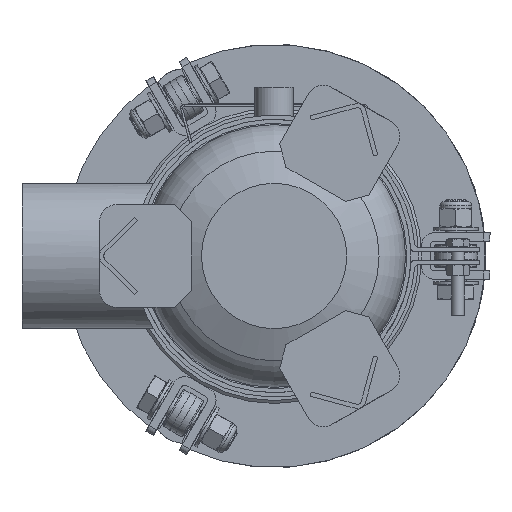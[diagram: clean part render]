
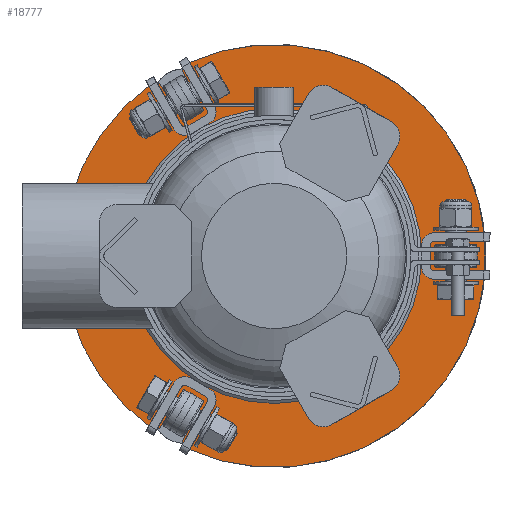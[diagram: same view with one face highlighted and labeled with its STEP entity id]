
A CAD part, front view. The second image highlights one B-rep face of the part: STEP entity #18777.
In plain terms, the highlighted planar face has unit normal (0, -1, 0).
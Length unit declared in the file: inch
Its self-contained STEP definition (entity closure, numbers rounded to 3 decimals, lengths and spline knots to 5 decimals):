
#87 = CIRCLE ( 'NONE', #5750, 0.3125 ) ;
#481 = AXIS2_PLACEMENT_3D ( 'NONE', #14087, #4755, #20292 ) ;
#501 = DIRECTION ( 'NONE',  ( 0., 1., 0. ) ) ;
#507 = CARTESIAN_POINT ( 'NONE',  ( 5.3125, 0., -0.3125 ) ) ;
#591 = AXIS2_PLACEMENT_3D ( 'NONE', #11074, #17511, #3110 ) ;
#632 = VERTEX_POINT ( 'NONE', #7516 ) ;
#1125 = DIRECTION ( 'NONE',  ( 0., 1., 0. ) ) ;
#1278 = CARTESIAN_POINT ( 'NONE',  ( -3.31155, 0., 4.98577 ) ) ;
#1375 = EDGE_CURVE ( 'NONE', #14117, #14117, #9867, .T. ) ;
#1520 = PLANE ( 'NONE',  #481 ) ;
#2455 = AXIS2_PLACEMENT_3D ( 'NONE', #4447, #17099, #9196 ) ;
#2499 = VERTEX_POINT ( 'NONE', #10146 ) ;
#2785 = CIRCLE ( 'NONE', #17692, 0.375 ) ;
#2924 = CARTESIAN_POINT ( 'NONE',  ( -4.3125, 0., 0. ) ) ;
#3005 = CIRCLE ( 'NONE', #8643, 0.1875 ) ;
#3071 = ORIENTED_EDGE ( 'NONE', *, *, #17497, .T. ) ;
#3110 = DIRECTION ( 'NONE',  ( -1., 0., 0. ) ) ;
#3152 = DIRECTION ( 'NONE',  ( 0., 1., 0. ) ) ;
#3170 = ORIENTED_EDGE ( 'NONE', *, *, #11156, .T. ) ;
#3233 = DIRECTION ( 'NONE',  ( 0., 1., 0. ) ) ;
#3238 = ORIENTED_EDGE ( 'NONE', *, *, #10824, .T. ) ;
#3355 = DIRECTION ( 'NONE',  ( 0.5, 0., -0.866 ) ) ;
#3702 = ORIENTED_EDGE ( 'NONE', *, *, #7614, .F. ) ;
#3980 = ORIENTED_EDGE ( 'NONE', *, *, #14363, .T. ) ;
#4447 = CARTESIAN_POINT ( 'NONE',  ( -2.65625, 0., -4.60076 ) ) ;
#4511 = VERTEX_POINT ( 'NONE', #19756 ) ;
#4651 = ORIENTED_EDGE ( 'NONE', *, *, #6536, .F. ) ;
#4673 = EDGE_LOOP ( 'NONE', ( #7892 ) ) ;
#4755 = DIRECTION ( 'NONE',  ( 0., -1., 0. ) ) ;
#4761 = EDGE_CURVE ( 'NONE', #12469, #5515, #16226, .T. ) ;
#4879 = CARTESIAN_POINT ( 'NONE',  ( -2.49965, 0., -5.45452 ) ) ;
#4930 = DIRECTION ( 'NONE',  ( 0., -1., 0. ) ) ;
#5159 = CARTESIAN_POINT ( 'NONE',  ( -2.98101, 0., -4.41326 ) ) ;
#5196 = DIRECTION ( 'NONE',  ( 0., 0., -1. ) ) ;
#5356 = CARTESIAN_POINT ( 'NONE',  ( -2.33149, 0., 4.78826 ) ) ;
#5515 = VERTEX_POINT ( 'NONE', #17279 ) ;
#5619 = AXIS2_PLACEMENT_3D ( 'NONE', #20441, #3152, #17258 ) ;
#5626 = ORIENTED_EDGE ( 'NONE', *, *, #20177, .T. ) ;
#5750 = AXIS2_PLACEMENT_3D ( 'NONE', #17694, #4930, #9796 ) ;
#6387 = DIRECTION ( 'NONE',  ( 0., 0., -1. ) ) ;
#6430 = CIRCLE ( 'NONE', #2455, 0.375 ) ;
#6436 = CIRCLE ( 'NONE', #18033, 6.1875 ) ;
#6473 = CARTESIAN_POINT ( 'NONE',  ( -2.7633, 0., 5.53618 ) ) ;
#6536 = EDGE_CURVE ( 'NONE', #7204, #632, #3005, .T. ) ;
#6555 = VERTEX_POINT ( 'NONE', #19388 ) ;
#6702 = LINE ( 'NONE', #12907, #9333 ) ;
#6830 = CARTESIAN_POINT ( 'NONE',  ( -2.57776, 0., -5.62497 ) ) ;
#6905 = DIRECTION ( 'NONE',  ( -0.5, 0., -0.866 ) ) ;
#7204 = VERTEX_POINT ( 'NONE', #6830 ) ;
#7460 = DIRECTION ( 'NONE',  ( 0., 0., -1. ) ) ;
#7488 = ORIENTED_EDGE ( 'NONE', *, *, #16138, .T. ) ;
#7516 = CARTESIAN_POINT ( 'NONE',  ( -2.66203, 0., -5.36077 ) ) ;
#7614 = EDGE_CURVE ( 'NONE', #14675, #16308, #11310, .T. ) ;
#7689 = CIRCLE ( 'NONE', #10335, 0.1875 ) ;
#7892 = ORIENTED_EDGE ( 'NONE', *, *, #1375, .T. ) ;
#8050 = VECTOR ( 'NONE', #3355, 39.37008 ) ;
#8101 = CARTESIAN_POINT ( 'NONE',  ( -3.31155, 0., -4.98577 ) ) ;
#8643 = AXIS2_PLACEMENT_3D ( 'NONE', #4879, #501, #5196 ) ;
#8668 = ORIENTED_EDGE ( 'NONE', *, *, #18021, .T. ) ;
#9032 = DIRECTION ( 'NONE',  ( 0., 0., -1. ) ) ;
#9196 = DIRECTION ( 'NONE',  ( 0., 0., -1. ) ) ;
#9333 = VECTOR ( 'NONE', #6905, 39.37008 ) ;
#9401 = FACE_OUTER_BOUND ( 'NONE', #19832, .T. ) ;
#9796 = DIRECTION ( 'NONE',  ( 0., 0., -1. ) ) ;
#9867 = CIRCLE ( 'NONE', #591, 4.3125 ) ;
#10009 = DIRECTION ( 'NONE',  ( 0., 0., -1. ) ) ;
#10146 = CARTESIAN_POINT ( 'NONE',  ( -2.98101, 0., 4.41326 ) ) ;
#10245 = CARTESIAN_POINT ( 'NONE',  ( -2.66203, 0., 5.36077 ) ) ;
#10335 = AXIS2_PLACEMENT_3D ( 'NONE', #19130, #11666, #10009 ) ;
#10494 = CARTESIAN_POINT ( 'NONE',  ( -3.58249, 0., 5.04489 ) ) ;
#10619 = ORIENTED_EDGE ( 'NONE', *, *, #4761, .F. ) ;
#10824 = EDGE_CURVE ( 'NONE', #14675, #5515, #6436, .T. ) ;
#10960 = FACE_BOUND ( 'NONE', #13535, .T. ) ;
#11038 = EDGE_CURVE ( 'NONE', #15149, #15149, #87, .T. ) ;
#11074 = CARTESIAN_POINT ( 'NONE',  ( 0., 0., 0. ) ) ;
#11156 = EDGE_CURVE ( 'NONE', #7204, #4511, #17333, .T. ) ;
#11310 = CIRCLE ( 'NONE', #19263, 0.1875 ) ;
#11549 = EDGE_CURVE ( 'NONE', #16170, #2499, #2785, .T. ) ;
#11666 = DIRECTION ( 'NONE',  ( 0., 1., 0. ) ) ;
#11670 = CARTESIAN_POINT ( 'NONE',  ( -3.41282, 0., -5.16118 ) ) ;
#12276 = LINE ( 'NONE', #17163, #14057 ) ;
#12469 = VERTEX_POINT ( 'NONE', #8101 ) ;
#12907 = CARTESIAN_POINT ( 'NONE',  ( -2.7633, 0., -5.53618 ) ) ;
#12999 = VERTEX_POINT ( 'NONE', #10245 ) ;
#13535 = EDGE_LOOP ( 'NONE', ( #17600 ) ) ;
#13605 = VECTOR ( 'NONE', #19859, 39.37008 ) ;
#13702 = ORIENTED_EDGE ( 'NONE', *, *, #16126, .F. ) ;
#13778 = CARTESIAN_POINT ( 'NONE',  ( -2.65625, 0., 4.60076 ) ) ;
#13982 = FACE_BOUND ( 'NONE', #4673, .T. ) ;
#14057 = VECTOR ( 'NONE', #20352, 39.37008 ) ;
#14087 = CARTESIAN_POINT ( 'NONE',  ( 0., 0., 0. ) ) ;
#14117 = VERTEX_POINT ( 'NONE', #2924 ) ;
#14348 = LINE ( 'NONE', #6473, #8050 ) ;
#14363 = EDGE_CURVE ( 'NONE', #12469, #17064, #19964, .T. ) ;
#14675 = VERTEX_POINT ( 'NONE', #10494 ) ;
#15034 = AXIS2_PLACEMENT_3D ( 'NONE', #16937, #15275, #9032 ) ;
#15149 = VERTEX_POINT ( 'NONE', #507 ) ;
#15275 = DIRECTION ( 'NONE',  ( 0., -1., 0. ) ) ;
#16126 = EDGE_CURVE ( 'NONE', #12999, #4511, #7689, .T. ) ;
#16138 = EDGE_CURVE ( 'NONE', #6555, #632, #6702, .T. ) ;
#16170 = VERTEX_POINT ( 'NONE', #5356 ) ;
#16226 = CIRCLE ( 'NONE', #5619, 0.1875 ) ;
#16308 = VERTEX_POINT ( 'NONE', #1278 ) ;
#16937 = CARTESIAN_POINT ( 'NONE',  ( 0., 0., 0. ) ) ;
#17064 = VERTEX_POINT ( 'NONE', #5159 ) ;
#17099 = DIRECTION ( 'NONE',  ( 0., 1., 0. ) ) ;
#17163 = CARTESIAN_POINT ( 'NONE',  ( -2.98101, 0., 4.41326 ) ) ;
#17258 = DIRECTION ( 'NONE',  ( 0., 0., -1. ) ) ;
#17279 = CARTESIAN_POINT ( 'NONE',  ( -3.58249, 0., -5.04489 ) ) ;
#17333 = CIRCLE ( 'NONE', #15034, 6.1875 ) ;
#17381 = DIRECTION ( 'NONE',  ( 0., -1., 0. ) ) ;
#17497 = EDGE_CURVE ( 'NONE', #12999, #16170, #14348, .T. ) ;
#17511 = DIRECTION ( 'NONE',  ( 0., 1., 0. ) ) ;
#17600 = ORIENTED_EDGE ( 'NONE', *, *, #11038, .F. ) ;
#17692 = AXIS2_PLACEMENT_3D ( 'NONE', #13778, #1125, #7460 ) ;
#17694 = CARTESIAN_POINT ( 'NONE',  ( 5.3125, 0., 0. ) ) ;
#18021 = EDGE_CURVE ( 'NONE', #17064, #6555, #6430, .T. ) ;
#18033 = AXIS2_PLACEMENT_3D ( 'NONE', #18821, #17381, #6387 ) ;
#18777 = ADVANCED_FACE ( 'NONE', ( #13982, #10960, #9401 ), #1520, .T. ) ;
#18821 = CARTESIAN_POINT ( 'NONE',  ( 0., 0., 0. ) ) ;
#18991 = CARTESIAN_POINT ( 'NONE',  ( -3.47393, 0., 4.89202 ) ) ;
#19130 = CARTESIAN_POINT ( 'NONE',  ( -2.49965, 0., 5.45452 ) ) ;
#19263 = AXIS2_PLACEMENT_3D ( 'NONE', #18991, #3233, #19408 ) ;
#19388 = CARTESIAN_POINT ( 'NONE',  ( -2.33149, 0., -4.78826 ) ) ;
#19408 = DIRECTION ( 'NONE',  ( 0., 0., -1. ) ) ;
#19756 = CARTESIAN_POINT ( 'NONE',  ( -2.57776, 0., 5.62497 ) ) ;
#19832 = EDGE_LOOP ( 'NONE', ( #3170, #13702, #3071, #19914, #5626, #3702, #3238, #10619, #3980, #8668, #7488, #4651 ) ) ;
#19859 = DIRECTION ( 'NONE',  ( 0.5, 0., 0.866 ) ) ;
#19914 = ORIENTED_EDGE ( 'NONE', *, *, #11549, .T. ) ;
#19964 = LINE ( 'NONE', #11670, #13605 ) ;
#20177 = EDGE_CURVE ( 'NONE', #2499, #16308, #12276, .T. ) ;
#20292 = DIRECTION ( 'NONE',  ( 0., 0., -1. ) ) ;
#20352 = DIRECTION ( 'NONE',  ( -0.5, 0., 0.866 ) ) ;
#20441 = CARTESIAN_POINT ( 'NONE',  ( -3.47393, 0., -4.89202 ) ) ;
